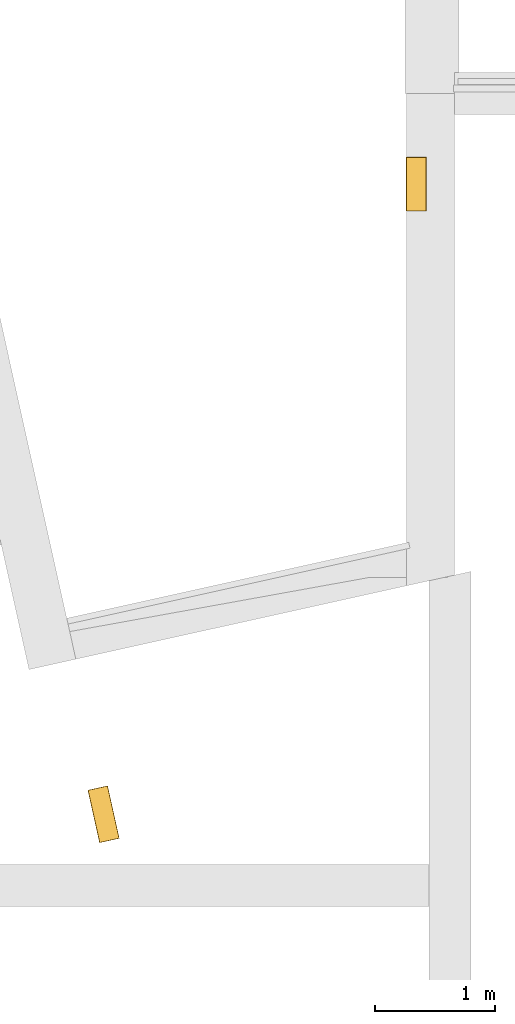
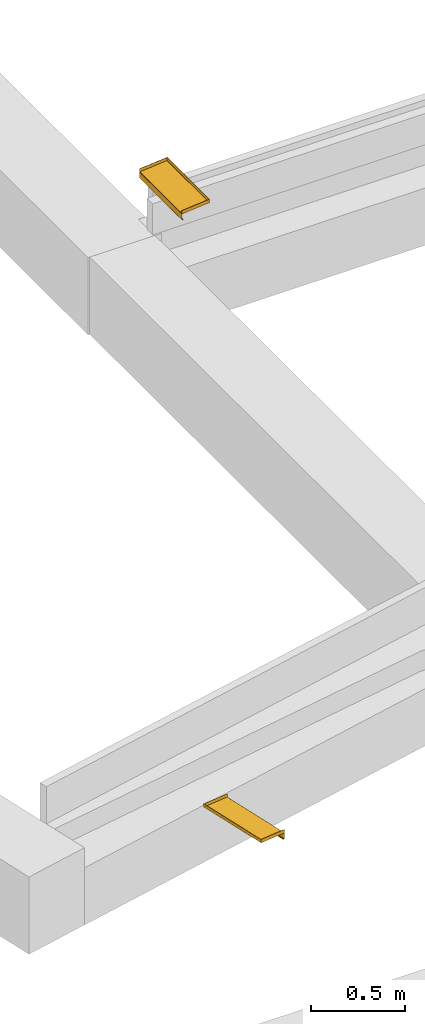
# One storey, part 11 of 11: 2 windows.
"""IFC2X3 building model written with IfcOpenShell, lengths in millimetres."""

import ifcopenshell
import ifcopenshell.guid

model = None  # the IFC model being written
_history = None  # IfcOwnerHistory: only IFC2X3 demands one
_inside = {}  # id of a spatial element -> (the spatial element, [elements in it])
_under = {}  # id of a project, library or spatial element -> (it, [spatial elements below it])
_declared = {}  # id of a project -> (the project, [libraries it declares])
_typed = {}  # id of a type object -> (the type object, [elements of that type])
_made_of = {}  # id of a material, layer set ... -> (it, [elements and type objects made of it])


def new_model(schema):
    """Start an empty IFC model of exactly this schema.

    Asked for "IFC4X3", IfcOpenShell would pick the latest addendum, in which some entities
    have other attributes; the version numbers below select the first issue.
    IFC2X3 requires an IfcOwnerHistory on every rooted entity: one is made here for all.
    """
    global model, _history
    if schema == "IFC4X3":
        model = ifcopenshell.file(schema_version=(4, 3, 0, 0))
    else:
        model = ifcopenshell.file(schema=schema)
    _inside.clear()
    _under.clear()
    _declared.clear()
    _typed.clear()
    _made_of.clear()
    _history = None
    if model.schema == "IFC2X3":
        org = make("IfcOrganization", Name="unknown")
        user = make(
            "IfcPersonAndOrganization",
            ThePerson=make("IfcPerson", FamilyName="unknown"),
            TheOrganization=org,
        )
        app = make(
            "IfcApplication",
            ApplicationDeveloper=org,
            Version="unknown",
            ApplicationFullName="unknown",
            ApplicationIdentifier="unknown",
        )
        _history = make(
            "IfcOwnerHistory",
            OwningUser=user,
            OwningApplication=app,
            ChangeAction="ADDED",
            CreationDate=0,
        )
    return model


def make(cls, **values):
    """One entity of the class cls with the attributes given. An attribute that is None is left unset."""
    return model.create_entity(
        cls, **{name: value for name, value in values.items() if value is not None}
    )


def entity(cls, *values):
    """Any entity or typed value of the class cls, its attributes in the order of the schema. None: left unset."""
    e = model.create_entity(cls)
    for i, value in enumerate(values):
        if value is not None:
            e[i] = value
    return e


def rooted(cls, **values):
    """An entity with a GlobalId (a new one), such as an element, a storey or a relation."""
    return make(cls, GlobalId=ifcopenshell.guid.new(), OwnerHistory=_history, **values)


def si_unit(unit_type, name, prefix=None):
    """IfcSIUnit, for example si_unit("LENGTHUNIT", "METRE", prefix="MILLI")."""
    return make("IfcSIUnit", UnitType=unit_type, Prefix=prefix, Name=name)


def converted_unit(unit_type, name, factor, base, dimensions=None, offset=None):
    """IfcConversionBasedUnit, such as the inch: factor (a typed value) times the base unit."""
    return make(
        "IfcConversionBasedUnit"
        if offset is None
        else "IfcConversionBasedUnitWithOffset",
        ConversionOffset=offset,
        Dimensions=None
        if dimensions is None
        else entity("IfcDimensionalExponents", *dimensions),
        UnitType=unit_type,
        Name=name,
        ConversionFactor=make(
            "IfcMeasureWithUnit", ValueComponent=factor, UnitComponent=base
        ),
    )


def derived_unit(unit_type, elements):
    """IfcDerivedUnit: a product of units, each with its exponent."""
    return make(
        "IfcDerivedUnit",
        Elements=[
            make("IfcDerivedUnitElement", Unit=unit, Exponent=power)
            for unit, power in elements
        ],
        UnitType=unit_type,
    )


def assignment(units):
    """IfcUnitAssignment: the units of a project."""
    return None if units is None else make("IfcUnitAssignment", Units=units)


def point(xyz):
    """IfcCartesianPoint."""
    return None if xyz is None else make("IfcCartesianPoint", Coordinates=xyz)


def direction(xyz):
    """IfcDirection."""
    return None if xyz is None else make("IfcDirection", DirectionRatios=xyz)


def frame(location, z_axis=None, x_axis=None):
    """IfcAxis2Placement3D, a coordinate frame: its origin and axes. An axis left out is left unset."""
    return make(
        "IfcAxis2Placement3D",
        Location=point(location),
        Axis=direction(z_axis),
        RefDirection=direction(x_axis),
    )


def frame_2d(location, x_axis=None):
    """IfcAxis2Placement2D, a coordinate frame in the plane: its origin and x axis."""
    return make(
        "IfcAxis2Placement2D", Location=point(location), RefDirection=direction(x_axis)
    )


def origin():
    """The frame at (0, 0, 0) with its axes left unset."""
    return frame((0.0, 0.0, 0.0))


def place(relative_to, where):
    """IfcLocalPlacement: puts the frame where relative to a parent placement (None: the world)."""
    return make(
        "IfcLocalPlacement", PlacementRelTo=relative_to, RelativePlacement=where
    )


def context(
    kind, dimensions, precision=None, world=None, true_north=None, identifier=None
):
    """IfcGeometricRepresentationContext, for example the 3D "Model" context."""
    return make(
        "IfcGeometricRepresentationContext",
        ContextIdentifier=identifier,
        ContextType=kind,
        CoordinateSpaceDimension=dimensions,
        Precision=precision,
        WorldCoordinateSystem=world,
        TrueNorth=true_north,
    )


def subcontext(parent, identifier, kind, view, scale=None):
    """IfcGeometricRepresentationSubContext, for example "Body" below "Model"."""
    return make(
        "IfcGeometricRepresentationSubContext",
        ContextIdentifier=identifier,
        ContextType=kind,
        ParentContext=parent,
        TargetScale=scale,
        TargetView=view,
    )


def project(units=None, contexts=None):
    """IfcProject with its units and contexts."""
    return rooted(
        "IfcProject",
        Name="project",
        RepresentationContexts=contexts,
        UnitsInContext=assignment(units),
    )


def spatial(cls, under=None, at=None, **own):
    """A site, building, storey or space (cls), placed at a placement, below another one or the project."""
    s = rooted(cls, ObjectPlacement=at, **own)
    if under is not None:
        _under.setdefault(under.id(), (under, []))[1].append(s)
    return s


def polyline(points):
    """IfcPolyline through the points."""
    return make("IfcPolyline", Points=[point(p) for p in points])


def circle_curve(where, radius):
    """IfcCircle in the frame where."""
    return make("IfcCircle", Position=where, Radius=radius)


def parameter(value):
    """IfcParameterValue: where a trimmed curve begins or ends, as a parameter of its basis curve."""
    return model.create_entity("IfcParameterValue", value)


def trimmed(basis, trim1, trim2, sense, master):
    """IfcTrimmedCurve: the piece of a basis curve between two trims."""
    return make(
        "IfcTrimmedCurve",
        BasisCurve=basis,
        Trim1=trim1,
        Trim2=trim2,
        SenseAgreement=sense,
        MasterRepresentation=master,
    )


def segment(curve, same_sense, transition):
    """IfcCompositeCurveSegment."""
    return make(
        "IfcCompositeCurveSegment",
        Transition=transition,
        SameSense=same_sense,
        ParentCurve=curve,
    )


def composite_curve(segments, self_intersect=None):
    """IfcCompositeCurve: segments joined end to end."""
    return make("IfcCompositeCurve", Segments=segments, SelfIntersect=self_intersect)


def outline(outer, holes=None, kind="AREA"):
    """IfcArbitraryClosedProfileDef: a profile drawn as a closed curve; with holes, ...WithVoids."""
    if holes is None:
        return make("IfcArbitraryClosedProfileDef", ProfileType=kind, OuterCurve=outer)
    return make(
        "IfcArbitraryProfileDefWithVoids",
        ProfileType=kind,
        OuterCurve=outer,
        InnerCurves=holes,
    )


def extrude(swept, where, along, depth):
    """IfcExtrudedAreaSolid: the profile swept, set in the frame where, extruded along a direction by depth."""
    return make(
        "IfcExtrudedAreaSolid",
        SweptArea=swept,
        Position=where,
        ExtrudedDirection=direction(along),
        Depth=depth,
    )


def shape(context_of_items, identifier, shape_type, items):
    """IfcShapeRepresentation: the items that make up one representation, for example the "Body"."""
    return make(
        "IfcShapeRepresentation",
        ContextOfItems=context_of_items,
        RepresentationIdentifier=identifier,
        RepresentationType=shape_type,
        Items=items,
    )


def source(mapping_origin, context_of_items, identifier, shape_type, items):
    """IfcRepresentationMap: a shape defined once, which mapped items show again and again."""
    return make(
        "IfcRepresentationMap",
        MappingOrigin=mapping_origin,
        MappedRepresentation=shape(context_of_items, identifier, shape_type, items),
    )


def transform(
    local_origin,
    x_axis=None,
    y_axis=None,
    z_axis=None,
    scale=None,
    scale2=None,
    scale3=None,
    uniform=True,
):
    """IfcCartesianTransformationOperator3D, or its non-uniform kind. x_axis, y_axis, z_axis: its Axis1, 2, 3."""
    if uniform:
        return make(
            "IfcCartesianTransformationOperator3D",
            Axis1=direction(x_axis),
            Axis2=direction(y_axis),
            LocalOrigin=point(local_origin),
            Scale=scale,
            Axis3=direction(z_axis),
        )
    return make(
        "IfcCartesianTransformationOperator3DnonUniform",
        Axis1=direction(x_axis),
        Axis2=direction(y_axis),
        LocalOrigin=point(local_origin),
        Scale=scale,
        Axis3=direction(z_axis),
        Scale2=scale2,
        Scale3=scale3,
    )


def mapped(mapping_source, mapping_target):
    """IfcMappedItem: shows the shape of a source again, moved by a transform."""
    return make(
        "IfcMappedItem", MappingSource=mapping_source, MappingTarget=mapping_target
    )


def material(Name=None, Category=None):
    """IfcMaterial."""
    return make("IfcMaterial", Name=Name, Category=Category)


def made_of(thing, what):
    """Note that an element or type object is made of a material, layer set ...; save() writes the relation."""
    if what is not None:
        _made_of.setdefault(what.id(), (what, []))[1].append(thing)
    return thing


def type_object(cls, material=None, **own):
    """A type object (cls), such as IfcWallType, which elements share."""
    return made_of(rooted(cls, **own), material)


def type_shapes(of_type, sources):
    """Give a type object the sources (RepresentationMaps) that its elements show as mapped items."""
    of_type.RepresentationMaps = sources


def element(
    cls,
    number,
    at=None,
    inside=None,
    cuts=None,
    type_object=None,
    material=None,
    context=None,
    identifier="Body",
    shape_type=None,
    held_by="IfcProductDefinitionShape",
    body=None,
    shapes=None,
    **own,
):
    """One element of the class cls, such as IfcWall. Its Tag is "e" and its number.

    at: its placement. inside: the storey or other place that contains it. cuts: it is an
    opening in that element (IfcRelVoidsElement). A single representation is given by context,
    identifier, shape_type and body (its items); several are given by shapes. held_by: the class
    of the entity that holds the representations. save() writes the other relations.
    """
    e = rooted(cls, Tag="e%d" % number, ObjectPlacement=at, **own)
    if body is not None:
        shapes = [shape(context, identifier, shape_type, body)]
    if shapes is not None:
        e.Representation = make(held_by, Representations=shapes)
    if inside is not None:
        _inside.setdefault(inside.id(), (inside, []))[1].append(e)
    if cuts is not None:
        rooted(
            "IfcRelVoidsElement", RelatingBuildingElement=cuts, RelatedOpeningElement=e
        )
    if type_object is not None:
        _typed.setdefault(type_object.id(), (type_object, []))[1].append(e)
    return made_of(e, material)


def aggregate(whole, parts):
    """IfcRelAggregates: a whole, such as a stair, and the parts it consists of."""
    return rooted("IfcRelAggregates", RelatingObject=whole, RelatedObjects=parts)


def save(model, path):
    """Write the relations noted so far, then the file.

    IfcRelAggregates (storeys below a building ...), IfcRelContainedInSpatialStructure (elements
    in a storey), IfcRelDefinesByType, IfcRelAssociatesMaterial and IfcRelDeclares: one each for
    every whole, place, type object, material and project.
    """
    for whole, parts in _under.values():
        aggregate(whole, parts)
    for where, things in _inside.values():
        rooted(
            "IfcRelContainedInSpatialStructure",
            RelatedElements=things,
            RelatingStructure=where,
        )
    for kind, things in _typed.values():
        rooted("IfcRelDefinesByType", RelatedObjects=things, RelatingType=kind)
    for what, things in _made_of.values():
        rooted("IfcRelAssociatesMaterial", RelatedObjects=things, RelatingMaterial=what)
    for by, libraries in _declared.values():
        rooted("IfcRelDeclares", RelatingContext=by, RelatedDefinitions=libraries)
    model.write(path)


model = new_model("IFC2X3")

# Units and contexts
model_context = context("Model", 3, precision=0.01, world=origin(), true_north=direction((6.12303176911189e-17, 1.0)))
body_context = subcontext(model_context, "Body", "Model", "MODEL_VIEW")
ifc_project = project(units=[si_unit("LENGTHUNIT", "METRE", prefix="MILLI"), si_unit("AREAUNIT", "SQUARE_METRE"), si_unit("VOLUMEUNIT", "CUBIC_METRE"), converted_unit("PLANEANGLEUNIT", "DEGREE", entity("IfcRatioMeasure", 0.0174532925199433), si_unit("PLANEANGLEUNIT", "RADIAN"), dimensions=[0, 0, 0, 0, 0, 0, 0]), si_unit("MASSUNIT", "GRAM", prefix="KILO"), derived_unit("MASSDENSITYUNIT", [(si_unit("MASSUNIT", "GRAM", prefix="KILO"), 1), (si_unit("LENGTHUNIT", "METRE"), -3)]), derived_unit("MOMENTOFINERTIAUNIT", [(si_unit("LENGTHUNIT", "METRE"), 4)]), si_unit("TIMEUNIT", "SECOND"), si_unit("FREQUENCYUNIT", "HERTZ"), si_unit("THERMODYNAMICTEMPERATUREUNIT", "DEGREE_CELSIUS"), derived_unit("THERMALTRANSMITTANCEUNIT", [(si_unit("MASSUNIT", "GRAM", prefix="KILO"), 1), (si_unit("THERMODYNAMICTEMPERATUREUNIT", "KELVIN"), -1), (si_unit("TIMEUNIT", "SECOND"), -3)]), derived_unit("VOLUMETRICFLOWRATEUNIT", [(si_unit("LENGTHUNIT", "METRE"), 3), (si_unit("TIMEUNIT", "SECOND"), -1)]), si_unit("ELECTRICCURRENTUNIT", "AMPERE"), si_unit("ELECTRICVOLTAGEUNIT", "VOLT"), si_unit("POWERUNIT", "WATT"), si_unit("FORCEUNIT", "NEWTON", prefix="KILO"), si_unit("ILLUMINANCEUNIT", "LUX"), si_unit("LUMINOUSFLUXUNIT", "LUMEN"), si_unit("LUMINOUSINTENSITYUNIT", "CANDELA"), derived_unit("USERDEFINED", [(si_unit("MASSUNIT", "GRAM", prefix="KILO"), -1), (si_unit("LENGTHUNIT", "METRE"), -2), (si_unit("TIMEUNIT", "SECOND"), 3), (si_unit("LUMINOUSFLUXUNIT", "LUMEN"), 1)]), derived_unit("LINEARVELOCITYUNIT", [(si_unit("LENGTHUNIT", "METRE"), 1), (si_unit("TIMEUNIT", "SECOND"), -1)]), si_unit("PRESSUREUNIT", "PASCAL"), derived_unit("USERDEFINED", [(si_unit("LENGTHUNIT", "METRE"), -2), (si_unit("MASSUNIT", "GRAM", prefix="KILO"), 1), (si_unit("TIMEUNIT", "SECOND"), -2)]), derived_unit("LINEARFORCEUNIT", [(si_unit("MASSUNIT", "GRAM", prefix="KILO"), 1), (si_unit("LENGTHUNIT", "METRE"), 1), (si_unit("TIMEUNIT", "SECOND"), -2), (si_unit("LENGTHUNIT", "METRE"), -1)]), derived_unit("PLANARFORCEUNIT", [(si_unit("MASSUNIT", "GRAM", prefix="KILO"), 1), (si_unit("LENGTHUNIT", "METRE"), 1), (si_unit("TIMEUNIT", "SECOND"), -2), (si_unit("LENGTHUNIT", "METRE"), -2)])], contexts=[model_context])

# Site, building, storey
site_placement = place(None, origin())
site = spatial("IfcSite", under=ifc_project, at=site_placement, Name="Default", CompositionType="ELEMENT")
building_placement = place(site_placement, origin())
building = spatial("IfcBuilding", under=site, at=building_placement, Name="-", CompositionType="ELEMENT")
storey_placement = place(building_placement, frame((0.0, 0.0, -780.0)))
storey = spatial("IfcBuildingStorey", under=building, at=storey_placement, Name="ok. fundering", CompositionType="ELEMENT", Elevation=-780.0)

# Windows
ifc_material_1 = material(Name="f2_beton_grijs")
ifc_material_2 = material(Name="<Unnamed>")
window_style = type_object("IfcWindowStyle", Name="NLRS_41_GM_UN_Aluminium waterslag Roval 305170:41.12_Aluminium waterslag Roval 305150", ConstructionType="NOTDEFINED", OperationType="NOTDEFINED", ParameterTakesPrecedence=False, Sizeable=False, material=ifc_material_2)
shared_shape = source(origin(), body_context, "Body", "SweptSolid", [
    extrude(outline(composite_curve([segment(trimmed(circle_curve(frame_2d((69.4938312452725, 2.66643498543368), x_axis=(1.0, 0.0)), 3.25065203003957), [parameter(360.0)], [parameter(84.999765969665)], True, "PARAMETER"), True, "CONTINUOUS"), segment(polyline([(69.7771574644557, 5.90471614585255), (-95.4556926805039, 20.3613974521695)]), True, "CONTINUOUS"), segment(polyline([(-95.4556926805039, 20.3613974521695), (-95.4556926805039, 1.83036975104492)]), True, "CONTINUOUS"), segment(trimmed(circle_curve(frame_2d((-94.0054973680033, 1.83036975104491), x_axis=(1.0, 0.0)), 1.45019531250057), [parameter(179.999999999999)], [parameter(264.999765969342)], True, "PARAMETER"), True, "CONTINUOUS"), segment(polyline([(-94.131896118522, 0.385693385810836), (69.77715746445, -13.955165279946)]), True, "CONTINUOUS"), segment(trimmed(circle_curve(frame_2d((69.4938312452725, -17.1934464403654), x_axis=(1.0, 0.0)), 3.25065203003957), [parameter(0.0)], [parameter(84.999765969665)], True, "PARAMETER"), False, "CONTINUOUS"), segment(polyline([(72.744483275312, -17.1934464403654), (72.7444832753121, 2.66643498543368)]), True, "CONTINUOUS")], self_intersect=False)), frame((-225.000004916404, 97.2554765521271, -20.4776862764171), z_axis=(1.0, 0.0, 0.0), x_axis=(0.0, 1.0, 0.0)), (0.0, 0.0, 1.0), 1.99999999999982),
    extrude(outline(composite_curve([segment(trimmed(circle_curve(frame_2d((69.4938312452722, 2.73288574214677), x_axis=(1.0, 0.0)), 3.25065203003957), [parameter(359.999999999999)], [parameter(84.999765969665)], True, "PARAMETER"), True, "CONTINUOUS"), segment(polyline([(69.7771574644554, 5.97116690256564), (-95.4556926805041, 20.4278482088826)]), True, "CONTINUOUS"), segment(polyline([(-95.4556926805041, 20.4278482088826), (-95.4556926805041, 1.78053168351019)]), True, "CONTINUOUS"), segment(trimmed(circle_curve(frame_2d((-94.0054973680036, 1.78053168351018), x_axis=(1.0, 0.0)), 1.45019531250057), [parameter(179.999999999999)], [parameter(264.999765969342)], True, "PARAMETER"), True, "CONTINUOUS"), segment(polyline([(-94.1318961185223, 0.335855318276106), (69.7771574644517, -14.005003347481)]), True, "CONTINUOUS"), segment(trimmed(circle_curve(frame_2d((69.4938312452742, -17.2432845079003), x_axis=(1.0, 0.0)), 3.25065203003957), [parameter(0.0)], [parameter(84.999765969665)], True, "PARAMETER"), False, "CONTINUOUS"), segment(polyline([(72.7444832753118, -17.2432845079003), (72.7444832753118, 2.73288574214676)]), True, "CONTINUOUS")], self_intersect=False)), frame((223.000004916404, 97.2554765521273, -20.4278482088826), z_axis=(1.0, 0.0, 0.0), x_axis=(0.0, 1.0, 0.0)), (0.0, 0.0, 1.0), 2.00000000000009),
    extrude(outline(composite_curve([segment(trimmed(circle_curve(frame_2d((-61.5856041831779, 9.52042414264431), x_axis=(3.16177192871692e-07, 1.0)), 3.25065203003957), [parameter(1.8115618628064e-05)], [parameter(84.9997840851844)], True, "PARAMETER"), True, "CONTINUOUS"), segment(polyline([(-64.8238853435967, 9.80375036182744), (-67.8655903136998, -24.9614610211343)]), True, "CONTINUOUS"), segment(trimmed(circle_curve(frame_2d((-64.6270003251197, -25.2335545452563), x_axis=(-0.996194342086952, 0.0871598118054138)), 3.25000000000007), [parameter(0.19774777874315)], [parameter(94.9999207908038)], True, "PARAMETER"), True, "CONTINUOUS"), segment(polyline([(-64.6270180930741, -28.483554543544), (-58.1355686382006, -28.4835900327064)]), True, "CONTINUOUS"), segment(polyline([(-58.1355686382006, -28.4835900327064), (-57.9781021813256, -26.683824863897)]), True, "CONTINUOUS"), segment(polyline([(-57.9781021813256, -26.683824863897), (-64.6268864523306, -26.684346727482)]), True, "CONTINUOUS"), segment(trimmed(circle_curve(frame_2d((-64.6270003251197, -25.2335545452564), x_axis=(-0.000328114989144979, -0.999999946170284)), 1.45079230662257), [parameter(265.018565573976)], [parameter(0.0232967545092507)], True, "PARAMETER"), False, "CONTINUOUS"), segment(polyline([(-66.0722714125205, -25.1071037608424), (-63.0216427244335, 9.76010138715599)]), True, "CONTINUOUS"), segment(trimmed(circle_curve(frame_2d((-61.5769663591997, 9.63370263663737), x_axis=(-0.996194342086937, 0.087159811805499)), 1.4501953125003), [parameter(274.965180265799)], [parameter(4.57999874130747e-12)], True, "PARAMETER"), False, "CONTINUOUS"), segment(polyline([(-61.5760791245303, 11.083897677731), (102.948335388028, 10.9832410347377)]), True, "CONTINUOUS"), segment(trimmed(circle_curve(frame_2d((102.950323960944, 14.2335858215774), x_axis=(-0.00108507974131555, -0.999999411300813)), 3.25034539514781), [parameter(0.027116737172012)], [parameter(85.0619364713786)], True, "PARAMETER"), True, "CONTINUOUS"), segment(polyline([(106.188299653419, 13.9502863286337), (107.812521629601, 32.5143551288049)]), True, "CONTINUOUS"), segment(polyline([(107.812521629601, 32.5143551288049), (106.01958711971, 32.671223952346)]), True, "CONTINUOUS"), segment(polyline([(106.01958711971, 32.671223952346), (104.394290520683, 14.0948727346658)]), True, "CONTINUOUS"), segment(trimmed(circle_curve(frame_2d((102.949614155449, 14.2212714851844), x_axis=(0.996194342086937, -0.0871598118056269)), 1.45019531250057), [parameter(275.000234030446)], [parameter(1.09919969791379e-11)], True, "PARAMETER"), False, "CONTINUOUS"), segment(polyline([(102.949614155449, 12.7710761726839), (-61.5856041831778, 12.7710761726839)]), True, "CONTINUOUS")], self_intersect=False)), frame((-225.000004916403, 104.568278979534, -41.7875357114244), z_axis=(-1.0, 0.0, 0.0), x_axis=(0.0, -0.996194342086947, 0.0871598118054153)), (0.0, 0.0, -1.0), 450.000009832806),
])
type_shapes(window_style, [shared_shape])
for number, where, z_axis, x_axis in (
    (1, (49164.6203901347, 38285.9304838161, 1411.0), (0.0, 0.0, 1.0), (0.0, 1.0, 0.0)),
    (2, (46389.7016064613, 33014.1450988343, 1412.0), (0.0, 0.0, 1.0), (0.216747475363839, -0.976227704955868, 0.0)),
):
    element("IfcWindow", number, at=place(storey_placement, frame(where, z_axis=z_axis, x_axis=x_axis)), inside=storey, type_object=window_style, material=ifc_material_1, Name="NLRS_41_GM_UN_Aluminium waterslag Roval 305170:41.12_Aluminium waterslag Roval 305150", ObjectType="NLRS_41_GM_UN_Aluminium waterslag Roval 305170:41.12_Aluminium waterslag Roval 305150", OverallHeight=75.795570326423, OverallWidth=450.000009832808, context=body_context, shape_type="MappedRepresentation", body=[
        mapped(shared_shape, transform((0.0, 0.0, 0.0), scale=1.0)),
    ])

save(model, "model.ifc")
